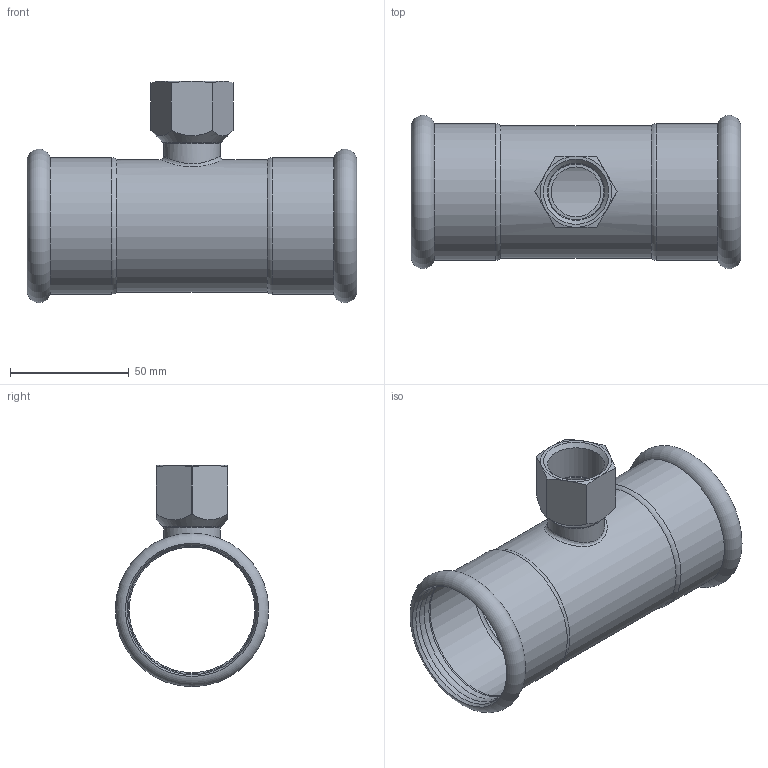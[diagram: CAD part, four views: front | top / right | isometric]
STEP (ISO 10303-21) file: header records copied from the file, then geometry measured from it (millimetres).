
FILE_DESCRIPTION(/* description */ (''),/* implementation_level */ '2;1');
FILE_NAME(/* name */ 'R:\Disegni3D_Area_Manager\Steelpres.step\389_STEELPRES\389304054_Steelpres.stp',/* time_stamp */ '2022-10-21T15:38:45+02:00',/* author */ ('Vault'),/* organization */ ('Raccorderie metalliche s.p.a. '),/* preprocessor_version */ 'ST-DEVELOPER v18.1',/* originating_system */ 'Autodesk Inventor 2020',/* authorisation */ 'Raccorderie metalliche s.p.a. ');
FILE_SCHEMA (('AUTOMOTIVE_DESIGN { 1 0 10303 214 3 1 1 }'));
Length unit declared in the file: millimetre
Products named in the file (1): 389304054_Steelpres
Bounding box: 139 x 64.76 x 93.38 mm (x, y, z)
Volume: 54328.5 mm3; surface area: 55765.1 mm2
Topology: 1 solids, 1 shells, 54 faces, 168 edges, 117 vertices
Faces by surface type: cylinder 21, torus 11, cone 11, plane 9, bspline 2
Full cylindrical faces by diameter (mm): 21 x1, 21.6 x1, 23.48 x1, 24 x1, 24.117 x1, 53 x1, 54.5 x2, 54.7 x4, 56 x1, 57.5 x2
Entity records: 2278 total; most frequent: CARTESIAN_POINT 625, DIRECTION 364, ORIENTED_EDGE 340, EDGE_CURVE 170, AXIS2_PLACEMENT_3D 165, VERTEX_POINT 119, CIRCLE 112, EDGE_LOOP 59
